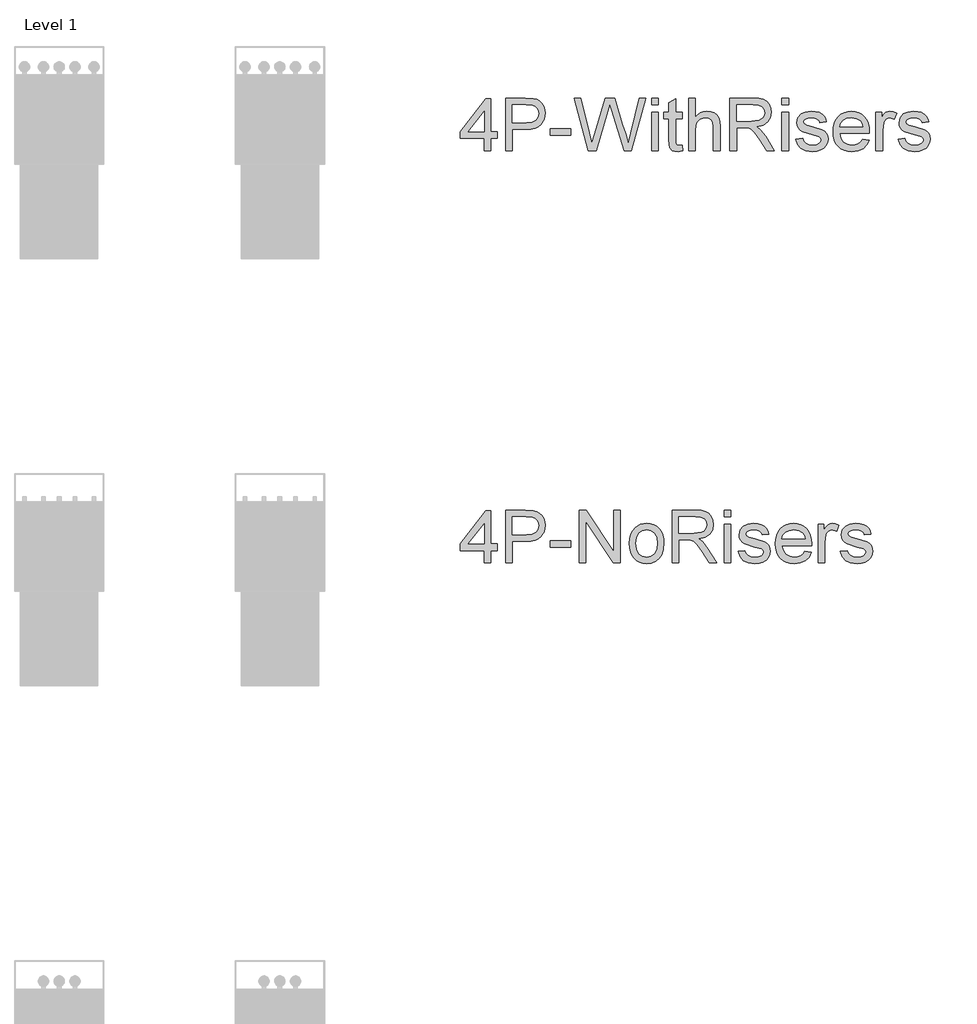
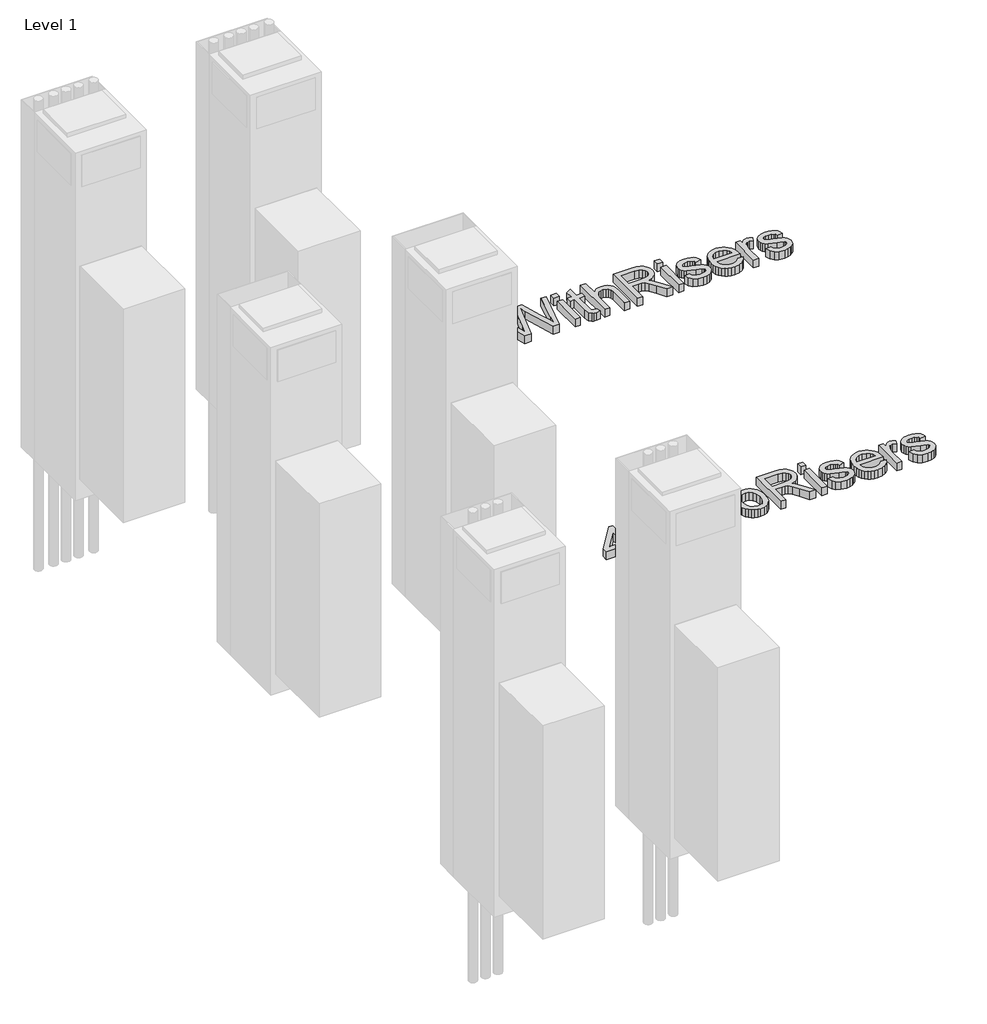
# One storey, part 2 of 2: 2 proxies.
"""IFC4 building model written with IfcOpenShell, lengths in millimetres."""

from ifc_helpers import new_model, si_unit, origin, origin_with_axes, place, context, project, spatial, polyline, outline, extrude, element, save

model = new_model("IFC4")

# Units and contexts
model_context = context("Model", 3, world=origin())
ifc_project = project(units=[si_unit("LENGTHUNIT", "METRE", prefix="MILLI")], contexts=[model_context])

# Site, building, storey
site = spatial("IfcSite", under=ifc_project)
building = spatial("IfcBuilding", under=site)
storey = spatial("IfcBuildingStorey", under=building, Name="Level 1", Elevation=0.0)

# Proxies
placement = place(None, origin())
element("IfcBuildingElementProxy", 1, Name="24\" Arial", ObjectType="24\" Arial", at=placement, inside=storey, context=model_context, shape_type="SweptSolid", body=[
    extrude(outline(polyline([(-14877.0723899, -48.4392013), (-14877.0723899, 11.3636958), (-14992.6913244, 11.3636958), (-14992.6913244, 43.2585743), (-14869.0986703, 202.7329667), (-14845.1775114, 202.7329667), (-14845.1775114, 43.2585743), (-14813.282633, 43.2585743), (-14813.282633, 11.3636958), (-14845.1775114, 11.3636958), (-14845.1775114, -48.4392013), (-14877.0723899, -48.4392013)]), holes=[polyline([(-14877.0723899, 43.2585743), (-14877.0723899, 141.8087652), (-14953.4456731, 43.2585743), (-14877.0723899, 43.2585743)])]), origin_with_axes(), (0.0, 0.0, 1.0), 50.8),
    extrude(outline(polyline([(-14773.4140349, -48.4392013), (-14773.4140349, 206.7198265), (-14678.8507038, 206.7198265), (-14640.7263569, 204.2903338), (-14623.7276948, 199.7506086), (-14609.7347513, 192.3609017), (-14598.4672003, 181.786379), (-14589.6447156, 167.6922066), (-14583.9447519, 151.0673127), (-14582.044764, 132.9006253), (-14587.1762887, 102.8278664), (-14602.5708626, 77.7698295), (-14614.89937, 67.9039089), (-14631.3587937, 60.8568227), (-14651.9491336, 56.628571), (-14676.6703898, 55.2191537), (-14741.5191564, 55.2191537), (-14741.5191564, -48.4392013), (-14773.4140349, -48.4392013)]), holes=[polyline([(-14741.5191564, 87.1140322), (-14674.8015493, 87.1140322), (-14646.5197625, 90.0418824), (-14627.8313572, 98.8254329), (-14617.4125712, 112.9196053), (-14613.9396425, 131.779321), (-14615.9875803, 146.1070984), (-14622.1313935, 158.1922672), (-14631.6079724, 167.2872912), (-14643.654207, 172.644634), (-14675.5490855, 174.824948), (-14741.5191564, 174.824948), (-14741.5191564, 87.1140322)])]), origin_with_axes(), (0.0, 0.0, 1.0), 50.8),
    extrude(outline(polyline([(-14558.1236052, 27.3111351), (-14558.1236052, 59.2060135), (-14458.45211, 59.2060135), (-14458.45211, 27.3111351), (-14558.1236052, 27.3111351)])), origin_with_axes(), (0.0, 0.0, 1.0), 50.8),
    extrude(outline(polyline([(-14418.5835119, -48.4392013), (-14418.5835119, 206.7198265), (-14384.4460248, 206.7198265), (-14251.1353999, 4.5735752), (-14251.1353999, 206.7198265), (-14219.2405214, 206.7198265), (-14219.2405214, -48.4392013), (-14253.3780085, -48.4392013), (-14386.6886334, 153.7693446), (-14386.6886334, -48.4392013), (-14418.5835119, -48.4392013)])), origin_with_axes(), (0.0, 0.0, 1.0), 50.8),
    extrude(outline(polyline([(-14175.3850635, 45.2520042), (-14173.6602794, 69.5196772), (-14168.4859272, 90.4312241), (-14159.8620068, 107.9866449), (-14147.7885183, 122.1859396), (-14122.2165503, 137.744037), (-14091.5987128, 142.9300695), (-14074.0024112, 141.3512886), (-14058.0919594, 136.6149459), (-14043.8673575, 128.7210413), (-14031.3286056, 117.6695749), (-14021.0947569, 103.8343149), (-14013.7848651, 87.5890292), (-14009.3989299, 68.9337179), (-14007.9369515, 47.8683809), (-14010.522181, 15.6464554), (-14018.2778692, -8.8820767), (-14030.978198, -27.2512217), (-14048.3973491, -40.9949865), (-14069.0869712, -49.5682925), (-14091.5987128, -52.4260611), (-14109.4519801, -50.8531203), (-14125.5103817, -46.134298), (-14139.7739178, -38.2695941), (-14152.2425882, -27.2590086), (-14162.3674212, -13.2894256), (-14169.5994447, 3.4522709), (-14173.9386588, 22.9660808), (-14175.3850635, 45.2520042)]), holes=[polyline([(-14143.4901851, 45.3142989), (-14139.799225, 16.4484994), (-14128.7263448, -4.1165333), (-14112.0625167, -16.4275203), (-14091.5987128, -20.5311827), (-14071.228351, -16.4041598), (-14054.5956702, -4.0230913), (-14043.5227901, 16.8144807), (-14039.83183, 46.3110138), (-14043.5461506, 74.335835), (-14054.6891123, 94.6205417), (-14071.3451535, 106.9315287), (-14091.5987128, 111.035191), (-14112.0625167, 106.9471024), (-14128.7263448, 94.6828364), (-14139.799225, 74.1645246), (-14143.4901851, 45.3142989)])]), origin_with_axes(), (0.0, 0.0, 1.0), 50.8),
    extrude(outline(polyline([(-13968.0683535, -48.4392013), (-13968.0683535, 206.7198265), (-13858.1182353, 206.7198265), (-13828.5671943, 204.9989358), (-13807.0677413, 199.8362638), (-13791.3539071, 190.3051771), (-13779.1597227, 175.4790422), (-13771.3339529, 157.0943234), (-13768.725363, 136.8874851), (-13773.0470567, 111.7515799), (-13786.012138, 90.9140079), (-13808.0099484, 75.6362366), (-13839.4298299, 67.1797331), (-13821.3020767, 53.5371972), (-13795.4497827, 20.7078985), (-13752.9025131, -48.4392013), (-13789.9678504, -48.4392013), (-13823.1709173, 4.4489858), (-13847.1543708, 39.4585985), (-13864.005083, 55.9978373), (-13879.1738386, 62.071569), (-13897.6753599, 63.1928733), (-13936.173475, 63.1928733), (-13936.173475, -48.4392013), (-13968.0683535, -48.4392013)]), holes=[polyline([(-13936.173475, 95.0877518), (-13864.7837665, 95.0877518), (-13828.3725234, 99.6041164), (-13816.3963703, 105.4753905), (-13807.6906882, 114.0564832), (-13802.3878531, 124.4363351), (-13800.6202415, 135.7038861), (-13803.9919413, 151.2619836), (-13814.1070407, 163.7987888), (-13831.5106182, 172.0684082), (-13856.7477522, 174.824948), (-13936.173475, 174.824948), (-13936.173475, 95.0877518)])]), origin_with_axes(), (0.0, 0.0, 1.0), 50.8),
    extrude(outline(polyline([(-13716.8961855, 174.824948), (-13716.8961855, 206.7198265), (-13685.001307, 206.7198265), (-13685.001307, 174.824948), (-13716.8961855, 174.824948)])), origin_with_axes(), (0.0, 0.0, 1.0), 50.8),
    extrude(outline(polyline([(-13716.8961855, -48.4392013), (-13716.8961855, 138.9432097), (-13685.001307, 138.9432097), (-13685.001307, -48.4392013), (-13716.8961855, -48.4392013)])), origin_with_axes(), (0.0, 0.0, 1.0), 50.8),
    extrude(outline(polyline([(-13649.1195687, 7.376836), (-13617.2246903, 11.3636958), (-13612.1943945, -2.2788401), (-13602.46085, -12.3082843), (-13587.9617622, -18.4754581), (-13568.6348363, -20.5311827), (-13549.5415155, -18.6467684), (-13536.117011, -12.9935258), (-13528.1744387, -4.8017748), (-13525.5269146, 4.6981646), (-13528.1900124, 12.8276209), (-13536.1793057, 19.025942), (-13569.0086044, 28.120966), (-13617.0378062, 43.7257844), (-13629.1930565, 51.5671278), (-13637.9999675, 61.9469796), (-13643.3495236, 74.2034588), (-13645.1327089, 87.6746844), (-13639.4015979, 111.4401065), (-13623.7656321, 129.599007), (-13603.4887123, 139.0366517), (-13576.0479038, 142.9300695), (-13555.2882002, 141.3649156), (-13537.2383153, 136.6694537), (-13522.7236538, 129.3031073), (-13512.5696203, 119.7252995), (-13505.8417943, 107.2274285), (-13501.6057558, 91.100892), (-13533.5006343, 87.1140322), (-13537.5264283, 97.1512632), (-13545.492361, 104.7122806), (-13557.476301, 109.4544634), (-13573.5561164, 111.035191), (-13591.8707537, 109.5245449), (-13604.0805118, 104.9926066), (-13610.9485008, 98.4516648), (-13613.2378304, 90.9140079), (-13609.4378547, 81.6321), (-13597.5395699, 74.5928006), (-13570.0676141, 67.80268), (-13523.2531587, 52.789661), (-13510.8876638, 45.6101986), (-13501.5123138, 35.7832121), (-13495.6021056, 23.2775542), (-13493.6320362, 8.0620775), (-13495.9447263, -7.6673303), (-13502.8827968, -22.4623179), (-13514.1814952, -35.1626467), (-13529.5760691, -44.6080782), (-13548.1710325, -50.4715654), (-13569.0708991, -52.4260611), (-13601.23053, -48.6572327), (-13624.7000524, -37.3507475), (-13640.3671656, -18.6311948), (-13649.1195687, 7.376836)])), origin_with_axes(), (0.0, 0.0, 1.0), 50.8),
    extrude(outline(polyline([(-13326.5576923, 7.376836), (-13295.2857607, 3.3899762), (-13306.5533117, -20.1729882), (-13324.5331151, -37.7868103), (-13348.8202552, -48.7662484), (-13379.0098167, -52.4260611), (-13398.8000593, -50.8472802), (-13416.4333484, -46.1109375), (-13431.9096841, -38.2170329), (-13445.2290663, -27.1655666), (-13455.9398586, -13.2641184), (-13463.5904246, 3.1797316), (-13468.1807641, 22.1659835), (-13469.7108773, 43.6946371), (-13468.1651905, 65.9533065), (-13463.5281299, 85.5722387), (-13455.7996956, 102.5514337), (-13444.9798876, 116.8908914), (-13431.6955461, 128.2830318), (-13416.5735114, 136.420275), (-13399.6137836, 141.3026209), (-13380.8163625, 142.9300695), (-13362.6243679, 141.3065143), (-13346.1727311, 136.4358487), (-13331.461452, 128.3180726), (-13318.4905307, 116.9531861), (-13307.902381, 102.6448757), (-13300.339417, 85.6968281), (-13295.8016385, 66.1090433), (-13294.2890457, 43.8815211), (-13294.4759298, 35.2848547), (-13437.8159988, 35.2848547), (-13432.2951324, 11.4104168), (-13419.4702143, -6.1411105), (-13400.9609061, -16.9336646), (-13378.3868698, -20.5311827), (-13361.4115683, -18.8647998), (-13347.1149382, -13.8656514), (-13335.4969795, -5.2222639), (-13326.5576923, 7.376836)]), holes=[polyline([(-13437.8159988, 67.1797331), (-13326.1839242, 67.1797331), (-13330.4978311, 84.0304453), (-13338.9543345, 96.0844668), (-13357.5492978, 107.29751), (-13380.9409519, 111.035191), (-13402.4404049, 108.052833), (-13420.2177505, 99.105759), (-13432.5754585, 85.1595365), (-13437.8159988, 67.1797331)])]), origin_with_axes(), (0.0, 0.0, 1.0), 50.8),
    extrude(outline(polyline([(-13262.3941672, -48.4392013), (-13262.3941672, 138.9432097), (-13234.4861486, 138.9432097), (-13234.4861486, 111.2220751), (-13224.1763783, 127.2941037), (-13214.6764389, 136.7628957), (-13205.1453522, 141.3882761), (-13194.7421399, 142.9300695), (-13178.8569953, 140.4694295), (-13162.722672, 133.0875094), (-13173.3750631, 104.4942492), (-13195.8011495, 111.035191), (-13205.3244494, 109.4622503), (-13213.8354607, 104.7434279), (-13220.7112365, 97.2369184), (-13225.32883, 87.3009162), (-13230.4992888, 50.0486949), (-13230.4992888, -48.4392013), (-13262.3941672, -48.4392013)])), origin_with_axes(), (0.0, 0.0, 1.0), 50.8),
    extrude(outline(polyline([(-13154.7489524, 7.376836), (-13122.8540739, 11.3636958), (-13117.8237782, -2.2788401), (-13108.0902337, -12.3082843), (-13093.5911459, -18.4754581), (-13074.26422, -20.5311827), (-13055.1708992, -18.6467684), (-13041.7463947, -12.9935258), (-13033.8038224, -4.8017748), (-13031.1562983, 4.6981646), (-13033.8193961, 12.8276209), (-13041.8086894, 19.025942), (-13074.6379881, 28.120966), (-13122.6671899, 43.7257844), (-13134.8224402, 51.5671278), (-13143.6293512, 61.9469796), (-13148.9789073, 74.2034588), (-13150.7620926, 87.6746844), (-13145.0309816, 111.4401065), (-13129.3950158, 129.599007), (-13109.118096, 139.0366517), (-13081.6772875, 142.9300695), (-13060.9175839, 141.3649156), (-13042.867699, 136.6694537), (-13028.3530375, 129.3031073), (-13018.1990039, 119.7252995), (-13011.471178, 107.2274285), (-13007.2351395, 91.100892), (-13039.1300179, 87.1140322), (-13043.1558119, 97.1512632), (-13051.1217447, 104.7122806), (-13063.1056846, 109.4544634), (-13079.1855001, 111.035191), (-13097.5001373, 109.5245449), (-13109.7098955, 104.9926066), (-13116.5778845, 98.4516648), (-13118.8672141, 90.9140079), (-13115.0672384, 81.6321), (-13103.1689536, 74.5928006), (-13075.6969978, 67.80268), (-13028.8825423, 52.789661), (-13016.5170475, 45.6101986), (-13007.1416974, 35.7832121), (-13001.2314892, 23.2775542), (-12999.2614199, 8.0620775), (-13001.57411, -7.6673303), (-13008.5121805, -22.4623179), (-13019.8108789, -35.1626467), (-13035.2054528, -44.6080782), (-13053.8004161, -50.4715654), (-13074.7002828, -52.4260611), (-13106.8599137, -48.6572327), (-13130.3294361, -37.3507475), (-13145.9965492, -18.6311948), (-13154.7489524, 7.376836)])), origin_with_axes(), (0.0, 0.0, 1.0), 50.8),
])
element("IfcBuildingElementProxy", 2, Name="24\" Arial", ObjectType="24\" Arial", at=placement, inside=storey, context=model_context, shape_type="SweptSolid", body=[
    extrude(outline(polyline([(-14877.0723899, 1943.6646523), (-14877.0723899, 2003.4675495), (-14992.6913244, 2003.4675495), (-14992.6913244, 2035.3624279), (-14869.0986703, 2194.8368203), (-14845.1775114, 2194.8368203), (-14845.1775114, 2035.3624279), (-14813.282633, 2035.3624279), (-14813.282633, 2003.4675495), (-14845.1775114, 2003.4675495), (-14845.1775114, 1943.6646523), (-14877.0723899, 1943.6646523)]), holes=[polyline([(-14877.0723899, 2035.3624279), (-14877.0723899, 2133.9126188), (-14953.4456731, 2035.3624279), (-14877.0723899, 2035.3624279)])]), origin_with_axes(), (0.0, 0.0, 1.0), 50.8),
    extrude(outline(polyline([(-14773.4140349, 1943.6646523), (-14773.4140349, 2198.8236801), (-14678.8507038, 2198.8236801), (-14640.7263569, 2196.3941874), (-14623.7276948, 2191.8544623), (-14609.7347513, 2184.4647553), (-14598.4672003, 2173.8902326), (-14589.6447156, 2159.7960603), (-14583.9447519, 2143.1711663), (-14582.044764, 2125.004479), (-14587.1762887, 2094.93172), (-14602.5708626, 2069.8736832), (-14614.89937, 2060.0077625), (-14631.3587937, 2052.9606763), (-14651.9491336, 2048.7324246), (-14676.6703898, 2047.3230074), (-14741.5191564, 2047.3230074), (-14741.5191564, 1943.6646523), (-14773.4140349, 1943.6646523)]), holes=[polyline([(-14741.5191564, 2079.2178858), (-14674.8015493, 2079.2178858), (-14646.5197625, 2082.145736), (-14627.8313572, 2090.9292865), (-14617.4125712, 2105.0234589), (-14613.9396425, 2123.8831746), (-14615.9875803, 2138.2109521), (-14622.1313935, 2150.2961209), (-14631.6079724, 2159.3911448), (-14643.654207, 2164.7484877), (-14675.5490855, 2166.9288016), (-14741.5191564, 2166.9288016), (-14741.5191564, 2079.2178858)])]), origin_with_axes(), (0.0, 0.0, 1.0), 50.8),
    extrude(outline(polyline([(-14558.1236052, 2019.4149887), (-14558.1236052, 2051.3098672), (-14458.45211, 2051.3098672), (-14458.45211, 2019.4149887), (-14558.1236052, 2019.4149887)])), origin_with_axes(), (0.0, 0.0, 1.0), 50.8),
    extrude(outline(polyline([(-14372.9215081, 1943.6646523), (-14442.5046707, 2198.8236801), (-14409.6130773, 2198.8236801), (-14369.2461217, 2031.1263894), (-14356.7871848, 1979.3595066), (-14343.4561223, 2025.1460997), (-14292.8728385, 2198.8236801), (-14245.4665836, 2198.8236801), (-14208.7127197, 2072.9261227), (-14192.9677382, 2026.2051093), (-14181.3653532, 1979.3595066), (-14169.2801844, 2029.631317), (-14128.5394608, 2198.8236801), (-14095.6478673, 2198.8236801), (-14165.2933246, 1943.6646523), (-14199.3685171, 1943.6646523), (-14260.5418973, 2140.5158554), (-14269.076269, 2167.9878113), (-14278.6696505, 2134.9093338), (-14334.4233931, 1943.6646523), (-14372.9215081, 1943.6646523)])), origin_with_axes(), (0.0, 0.0, 1.0), 50.8),
    extrude(outline(polyline([(-14067.7398487, 2166.9288016), (-14067.7398487, 2198.8236801), (-14035.8449702, 2198.8236801), (-14035.8449702, 2166.9288016), (-14067.7398487, 2166.9288016)])), origin_with_axes(), (0.0, 0.0, 1.0), 50.8),
    extrude(outline(polyline([(-14067.7398487, 1943.6646523), (-14067.7398487, 2131.0470634), (-14035.8449702, 2131.0470634), (-14035.8449702, 1943.6646523), (-14067.7398487, 1943.6646523)])), origin_with_axes(), (0.0, 0.0, 1.0), 50.8),
    extrude(outline(polyline([(-13920.2260357, 1970.2644826), (-13916.2391759, 1942.7302321), (-13940.0980401, 1939.6777925), (-13955.4069588, 1941.0015546), (-13966.8224598, 1944.9728407), (-13980.1535222, 1958.8645554), (-13984.0157927, 1995.0577671), (-13984.0157927, 2099.1521849), (-14007.9369515, 2099.1521849), (-14007.9369515, 2131.0470634), (-13984.0157927, 2131.0470634), (-13984.0157927, 2176.5844777), (-13952.1209142, 2195.3351778), (-13952.1209142, 2131.0470634), (-13920.2260357, 2131.0470634), (-13920.2260357, 2099.1521849), (-13952.1209142, 2099.1521849), (-13952.1209142, 1995.9921873), (-13950.4389577, 1979.5463906), (-13944.9881728, 1973.7218376), (-13934.1177504, 1971.572671), (-13920.2260357, 1970.2644826)])), origin_with_axes(), (0.0, 0.0, 1.0), 50.8),
    extrude(outline(polyline([(-13888.3311573, 1943.6646523), (-13888.3311573, 2198.8236801), (-13856.4362788, 2198.8236801), (-13856.4362788, 2105.0078852), (-13844.7209847, 2118.1442768), (-13831.565126, 2127.5274137), (-13816.9687027, 2133.1572958), (-13800.9317149, 2135.0339232), (-13781.6670837, 2132.9859854), (-13765.1122713, 2126.8421722), (-13752.0771086, 2117.0852672), (-13743.3714264, 2104.1980543), (-13738.46572, 2086.4907903), (-13736.8304845, 2062.2737317), (-13736.8304845, 1943.6646523), (-13768.725363, 1943.6646523), (-13768.725363, 2058.9721134), (-13771.2638714, 2078.9375598), (-13778.8793966, 2092.611243), (-13791.1514494, 2100.5070943), (-13807.6595408, 2103.1390447), (-13821.1385532, 2101.3636462), (-13833.792161, 2096.0374507), (-13844.2732416, 2087.6743893), (-13851.2346726, 2076.7883931), (-13855.1358773, 2062.3204527), (-13856.4362788, 2043.2115582), (-13856.4362788, 1943.6646523), (-13888.3311573, 1943.6646523)])), origin_with_axes(), (0.0, 0.0, 1.0), 50.8),
    extrude(outline(polyline([(-13688.9881668, 1943.6646523), (-13688.9881668, 2198.8236801), (-13579.0380486, 2198.8236801), (-13549.4870077, 2197.1027895), (-13527.9875547, 2191.9401175), (-13512.2737205, 2182.4090307), (-13500.079536, 2167.5828958), (-13492.2537663, 2149.1981771), (-13489.6451764, 2128.9913388), (-13493.9668701, 2103.8554336), (-13506.9319513, 2083.0178616), (-13528.9297618, 2067.7400902), (-13560.3496433, 2059.2835868), (-13542.2218901, 2045.6410509), (-13516.369596, 2012.8117521), (-13473.8223265, 1943.6646523), (-13510.8876638, 1943.6646523), (-13544.0907306, 1996.5528395), (-13568.0741842, 2031.5624522), (-13584.9248963, 2048.1016909), (-13600.093652, 2054.1754227), (-13618.5951733, 2055.296727), (-13657.0932883, 2055.296727), (-13657.0932883, 1943.6646523), (-13688.9881668, 1943.6646523)]), holes=[polyline([(-13657.0932883, 2087.1916055), (-13585.7035799, 2087.1916055), (-13549.2923368, 2091.7079701), (-13537.3161837, 2097.5792441), (-13528.6105015, 2106.1603369), (-13523.3076665, 2116.5401887), (-13521.5400548, 2127.8077398), (-13524.9117546, 2143.3658372), (-13535.026854, 2155.9026425), (-13552.4304315, 2164.1722619), (-13577.6675656, 2166.9288016), (-13657.0932883, 2166.9288016), (-13657.0932883, 2087.1916055)])]), origin_with_axes(), (0.0, 0.0, 1.0), 50.8),
    extrude(outline(polyline([(-13437.8159988, 2166.9288016), (-13437.8159988, 2198.8236801), (-13405.9211204, 2198.8236801), (-13405.9211204, 2166.9288016), (-13437.8159988, 2166.9288016)])), origin_with_axes(), (0.0, 0.0, 1.0), 50.8),
    extrude(outline(polyline([(-13437.8159988, 1943.6646523), (-13437.8159988, 2131.0470634), (-13405.9211204, 2131.0470634), (-13405.9211204, 1943.6646523), (-13437.8159988, 1943.6646523)])), origin_with_axes(), (0.0, 0.0, 1.0), 50.8),
    extrude(outline(polyline([(-13370.0393821, 1999.4806897), (-13338.1445036, 2003.4675495), (-13333.1142078, 1989.8250136), (-13323.3806634, 1979.7955694), (-13308.8815756, 1973.6283956), (-13289.5546497, 1971.572671), (-13270.4613289, 1973.4570852), (-13257.0368244, 1979.1103278), (-13249.0942521, 1987.3020788), (-13246.446728, 1996.8020182), (-13249.1098258, 2004.9314746), (-13257.0991191, 2011.1297957), (-13289.9284178, 2020.2248196), (-13337.9576196, 2035.8296381), (-13350.1128699, 2043.6709815), (-13358.9197809, 2054.0508333), (-13364.2693369, 2066.3073125), (-13366.0525223, 2079.778538), (-13360.3214113, 2103.5439601), (-13344.6854455, 2121.7028607), (-13324.4085257, 2131.1405054), (-13296.9677172, 2135.0339232), (-13276.2080135, 2133.4687692), (-13258.1581287, 2128.7733074), (-13243.6434672, 2121.4069609), (-13233.4894336, 2111.8291532), (-13226.7616077, 2099.3312821), (-13222.5255692, 2083.2047457), (-13254.4204476, 2079.2178858), (-13258.4462416, 2089.2551169), (-13266.4121744, 2096.8161342), (-13278.3961143, 2101.5583171), (-13294.4759298, 2103.1390447), (-13312.790567, 2101.6283986), (-13325.0003252, 2097.0964603), (-13331.8683142, 2090.5555184), (-13334.1576438, 2083.0178616), (-13330.3576681, 2073.7359536), (-13318.4593833, 2066.6966543), (-13290.9874274, 2059.9065336), (-13244.172972, 2044.8935147), (-13231.8074772, 2037.7140523), (-13222.4321271, 2027.8870658), (-13216.5219189, 2015.3814079), (-13214.5518495, 2000.1659312), (-13216.8645397, 1984.4365233), (-13223.8026102, 1969.6415358), (-13235.1013086, 1956.941207), (-13250.4958825, 1947.4957754), (-13269.0908458, 1941.6322883), (-13289.9907125, 1939.6777925), (-13322.1503434, 1943.4466209), (-13345.6198658, 1954.7531062), (-13361.2869789, 1973.4726589), (-13370.0393821, 1999.4806897)])), origin_with_axes(), (0.0, 0.0, 1.0), 50.8),
    extrude(outline(polyline([(-13047.4775057, 1999.4806897), (-13016.205574, 1995.4938299), (-13027.4731251, 1971.9308654), (-13045.4529284, 1954.3170434), (-13069.7400685, 1943.3376052), (-13099.92963, 1939.6777925), (-13119.7198726, 1941.2565734), (-13137.3531618, 1945.9929162), (-13152.8294974, 1953.8868207), (-13166.1488797, 1964.9382871), (-13176.859672, 1978.8397353), (-13184.5102379, 1995.2835853), (-13189.1005775, 2014.2698371), (-13190.6306907, 2035.7984907), (-13189.0850038, 2058.0571602), (-13184.4479432, 2077.6760924), (-13176.7195089, 2094.6552873), (-13165.8997009, 2108.994745), (-13152.6153595, 2120.3868855), (-13137.4933248, 2128.5241286), (-13120.5335969, 2133.4064745), (-13101.7361759, 2135.0339232), (-13083.5441813, 2133.410368), (-13067.0925445, 2128.5397023), (-13052.3812654, 2120.4219262), (-13039.410344, 2109.0570397), (-13028.8221944, 2094.7487294), (-13021.2592303, 2077.8006818), (-13016.7214519, 2058.2128969), (-13015.2088591, 2035.9853748), (-13015.3957431, 2027.3887083), (-13158.7358122, 2027.3887083), (-13153.2149458, 2003.5142705), (-13140.3900276, 1985.9627431), (-13121.8807195, 1975.170189), (-13099.3066832, 1971.572671), (-13082.3313817, 1973.2390538), (-13068.0347516, 1978.2382022), (-13056.4167929, 1986.8815897), (-13047.4775057, 1999.4806897)]), holes=[polyline([(-13158.7358122, 2059.2835868), (-13047.1037376, 2059.2835868), (-13051.4176445, 2076.134299), (-13059.8741479, 2088.1883204), (-13078.4691112, 2099.4013636), (-13101.8607652, 2103.1390447), (-13123.3602182, 2100.1566867), (-13141.1375638, 2091.2096126), (-13153.4952719, 2077.2633901), (-13158.7358122, 2059.2835868)])]), origin_with_axes(), (0.0, 0.0, 1.0), 50.8),
    extrude(outline(polyline([(-12983.3139806, 1943.6646523), (-12983.3139806, 2131.0470634), (-12955.405962, 2131.0470634), (-12955.405962, 2103.3259287), (-12945.0961917, 2119.3979574), (-12935.5962523, 2128.8667494), (-12926.0651655, 2133.4921297), (-12915.6619532, 2135.0339232), (-12899.7768087, 2132.5732831), (-12883.6424854, 2125.191363), (-12894.2948764, 2096.5981028), (-12916.7209629, 2103.1390447), (-12926.2442628, 2101.5661039), (-12934.755274, 2096.8472816), (-12941.6310498, 2089.3407721), (-12946.2486433, 2079.4047699), (-12951.4191021, 2042.1525486), (-12951.4191021, 1943.6646523), (-12983.3139806, 1943.6646523)])), origin_with_axes(), (0.0, 0.0, 1.0), 50.8),
    extrude(outline(polyline([(-12875.6687658, 1999.4806897), (-12843.7738873, 2003.4675495), (-12838.7435915, 1989.8250136), (-12829.0100471, 1979.7955694), (-12814.5109592, 1973.6283956), (-12795.1840334, 1971.572671), (-12776.0907126, 1973.4570852), (-12762.6662081, 1979.1103278), (-12754.7236358, 1987.3020788), (-12752.0761117, 1996.8020182), (-12754.7392095, 2004.9314746), (-12762.7285027, 2011.1297957), (-12795.5578015, 2020.2248196), (-12843.5870032, 2035.8296381), (-12855.7422536, 2043.6709815), (-12864.5491646, 2054.0508333), (-12869.8987206, 2066.3073125), (-12871.681906, 2079.778538), (-12865.950795, 2103.5439601), (-12850.3148292, 2121.7028607), (-12830.0379094, 2131.1405054), (-12802.5971008, 2135.0339232), (-12781.8373972, 2133.4687692), (-12763.7875124, 2128.7733074), (-12749.2728509, 2121.4069609), (-12739.1188173, 2111.8291532), (-12732.3909914, 2099.3312821), (-12728.1549528, 2083.2047457), (-12760.0498313, 2079.2178858), (-12764.0756253, 2089.2551169), (-12772.0415581, 2096.8161342), (-12784.025498, 2101.5583171), (-12800.1053135, 2103.1390447), (-12818.4199507, 2101.6283986), (-12830.6297089, 2097.0964603), (-12837.4976978, 2090.5555184), (-12839.7870275, 2083.0178616), (-12835.9870517, 2073.7359536), (-12824.088767, 2066.6966543), (-12796.6168111, 2059.9065336), (-12749.8023557, 2044.8935147), (-12737.4368608, 2037.7140523), (-12728.0615108, 2027.8870658), (-12722.1513026, 2015.3814079), (-12720.1812332, 2000.1659312), (-12722.4939234, 1984.4365233), (-12729.4319939, 1969.6415358), (-12740.7306923, 1956.941207), (-12756.1252662, 1947.4957754), (-12774.7202295, 1941.6322883), (-12795.6200962, 1939.6777925), (-12827.779727, 1943.4466209), (-12851.2492494, 1954.7531062), (-12866.9163626, 1973.4726589), (-12875.6687658, 1999.4806897)])), origin_with_axes(), (0.0, 0.0, 1.0), 50.8),
])

save(model, "model.ifc")
